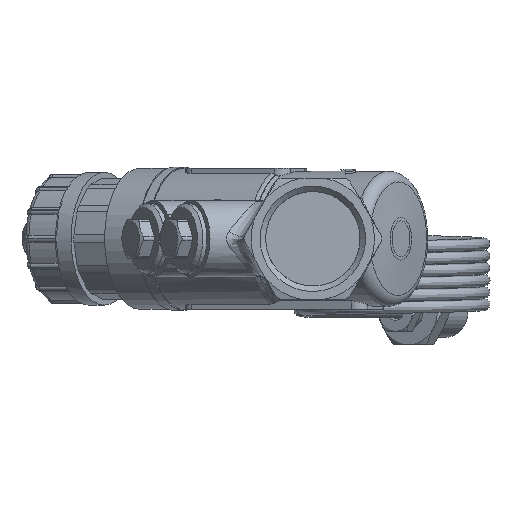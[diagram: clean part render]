
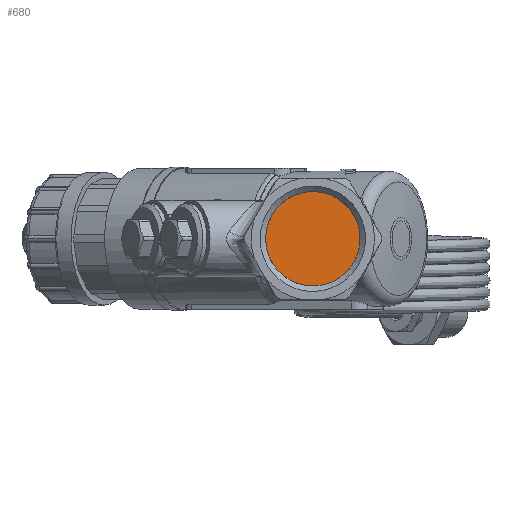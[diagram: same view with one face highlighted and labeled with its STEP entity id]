
A CAD part, left-side view. The second image highlights one B-rep face of the part: STEP entity #680.
In plain terms, the highlighted planar face has unit normal (-1, 0, 0).
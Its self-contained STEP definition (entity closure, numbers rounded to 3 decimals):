
#680=ADVANCED_FACE('',(#16285),#16287,.T.);
#16285=FACE_BOUND('',#16286,.T.);
#16286=EDGE_LOOP('',(#19511));
#16287=PLANE('',#16288);
#16288=AXIS2_PLACEMENT_3D('',#16289,#16290,#16291);
#16289=CARTESIAN_POINT('',(-24.5,0.,0.));
#16290=DIRECTION('',(-1.,0.,0.));
#16291=DIRECTION('',(0.,0.,-1.));
#19511=ORIENTED_EDGE('',*,*,#21095,.F.);
#21095=EDGE_CURVE('',#23572,#23572,#23573,.F.);
#23572=VERTEX_POINT('',#36957);
#23573=(BOUNDED_CURVE()B_SPLINE_CURVE(3,
(#36958,#36959,#36960,#36961,#36962,#36963,#36964),
.UNSPECIFIED.,.F.,.F.)B_SPLINE_CURVE_WITH_KNOTS((4,3,4),
(0.,0.5,1.),
.UNSPECIFIED.)CURVE()GEOMETRIC_REPRESENTATION_ITEM()RATIONAL_B_SPLINE_CURVE((1.,
0.333,0.333,1.,0.333,0.333,1.))
REPRESENTATION_ITEM(''));
#36957=CARTESIAN_POINT('',(-24.5,0.,-12.059));
#36958=CARTESIAN_POINT('',(-24.5,0.,-12.059));
#36959=CARTESIAN_POINT('',(-24.5,-24.118,-12.059));
#36960=CARTESIAN_POINT('',(-24.5,-24.118,12.059));
#36961=CARTESIAN_POINT('',(-24.5,0.,12.059));
#36962=CARTESIAN_POINT('',(-24.5,24.118,12.059));
#36963=CARTESIAN_POINT('',(-24.5,24.118,-12.059));
#36964=CARTESIAN_POINT('',(-24.5,0.,-12.059));
